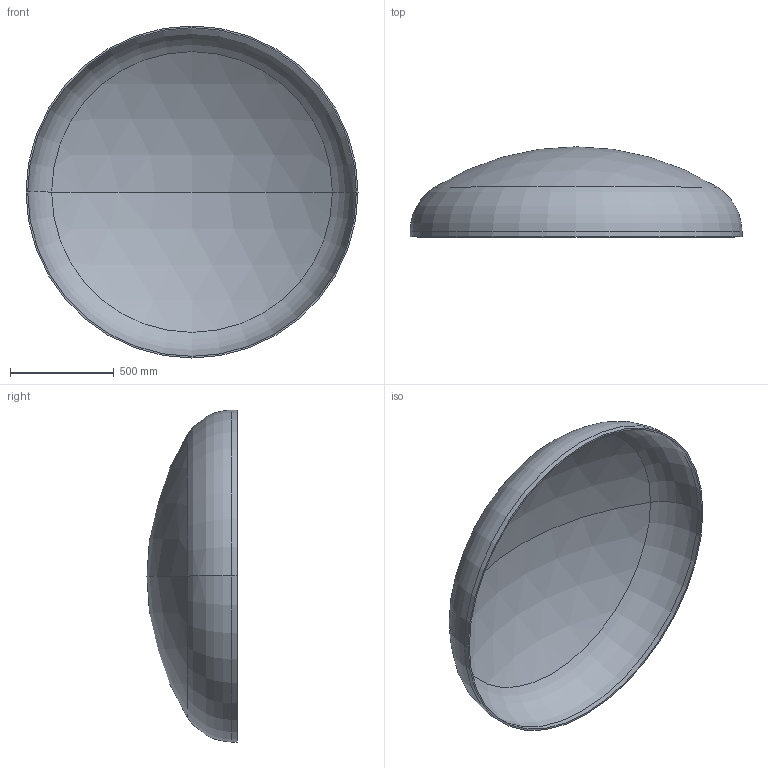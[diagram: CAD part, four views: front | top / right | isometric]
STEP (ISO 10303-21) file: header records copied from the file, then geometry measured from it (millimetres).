
FILE_DESCRIPTION (( 'STEP AP203' ), '1' );
FILE_NAME ('DIN 28013 Korbbogenform_-_Boden DIN 28013 - 1600 x 25 - I - s=8.step', '2016-07-01T11:03:46', ( '' ), ( '' ), 'SwSTEP 2.0', 'SolidWorks 2013', '' );
FILE_SCHEMA (( 'CONFIG_CONTROL_DESIGN' ));
Length unit declared in the file: millimetre
Products named in the file (1): DIN 28013 Korbbogenform_-_Boden DIN 28013 - 1600 x 25 - I - s=8
Bounding box: 1600 x 434.36 x 1600 mm (x, y, z)
Volume: 23107229.1 mm3; surface area: 5816950.3 mm2
Topology: 1 solids, 1 shells, 13 faces, 24 edges, 14 vertices
Faces by surface type: torus 4, cylinder 4, sphere 4, plane 1
Entity records: 407 total; most frequent: DIRECTION 72, CARTESIAN_POINT 52, ORIENTED_EDGE 48, AXIS2_PLACEMENT_3D 34, EDGE_CURVE 24, CIRCLE 20, EDGE_LOOP 14, VERTEX_POINT 14
